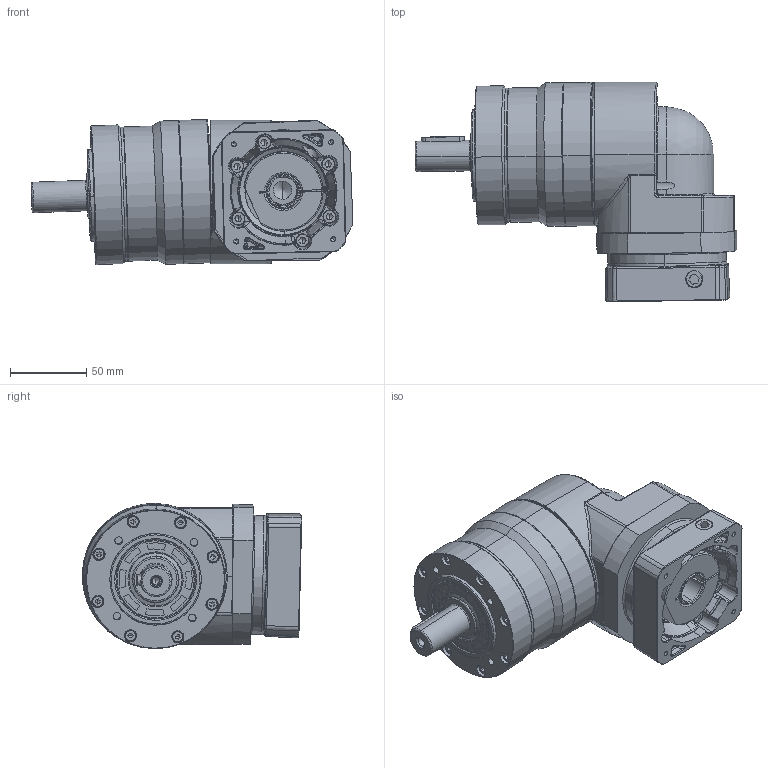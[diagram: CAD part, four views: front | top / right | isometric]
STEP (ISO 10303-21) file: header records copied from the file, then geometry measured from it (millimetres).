
FILE_DESCRIPTION (( 'STEP AP214' ), '1' );
FILE_NAME ('FER090-L1-S2-P1 19-70-90-M5-45.STEP', '2025-02-19T01:49:46', ( '微软用户' ), ( '微软中国' ), 'SwSTEP 2.0', 'SolidWorks 2021', '' );
FILE_SCHEMA (( 'AUTOMOTIVE_DESIGN' ));
Length unit declared in the file: millimetre
Products named in the file (4): FER090-L1-S2-P1 19-70-90-M5-45; FER090D-L1-19-70-90-M6-45.STEP; EVT090D-L1-10-80-100-M6-45.STEP; 7-FADR090F_________stp_stp.stp.STEP
Assembly tree (7 placements, depth 2):
  FER090-L1-S2-P1 19-70-90-M5-45
    FER090D-L1-19-70-90-M6-45.STEP
    7-FADR090F_________stp_stp.stp.STEP
    EVT090D-L1-10-80-100-M6-45.STEP  x5
Bounding box: 210.93 x 143.73 x 95.2 mm (x, y, z)
Volume: 242090.5 mm3; surface area: 216333.3 mm2
Topology: 1 solids, 51 shells, 1496 faces, 3693 edges, 2351 vertices
Faces by surface type: cylinder 505, plane 477, bspline 282, cone 230, sphere 2
Entity records: 79148 total; most frequent: CARTESIAN_POINT 33435, ORIENTED_EDGE 6605, DIRECTION 5831, EDGE_CURVE 3360, AXIS2_PLACEMENT_3D 2326, VERTEX_POINT 2167, EDGE_LOOP 1532, UNCERTAINTY_MEASURE_WITH_UNIT 1403
